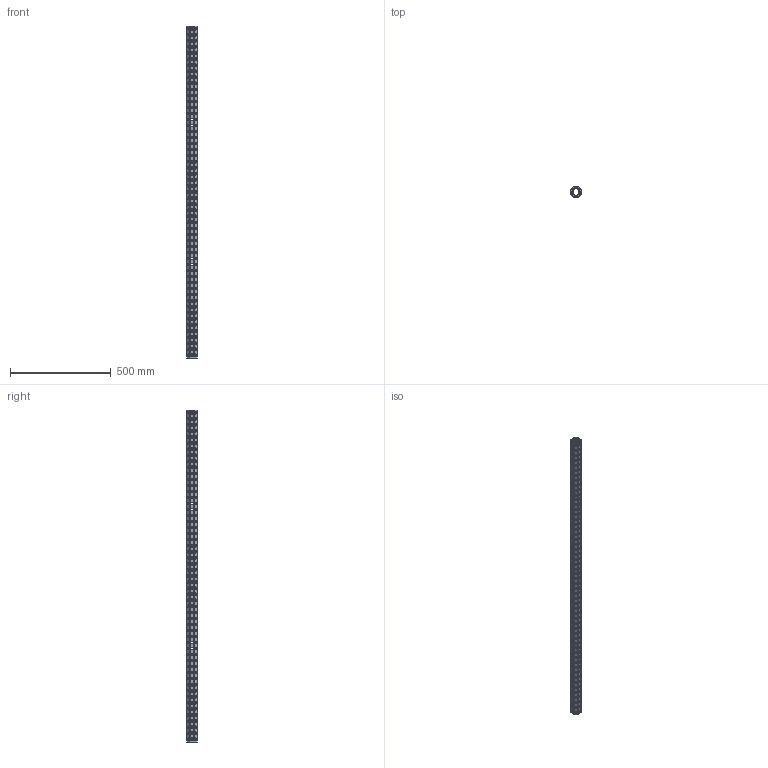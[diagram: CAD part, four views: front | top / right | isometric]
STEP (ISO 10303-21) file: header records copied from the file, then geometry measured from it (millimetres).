
FILE_DESCRIPTION(('CATIA V5 STEP Exchange'),'2;1');
FILE_NAME('U:\Room\唐宝山\EGT002\46-01-010284-01-EGT002-1648.stp','2021-08-24T01:33:16+00:00',('none'),('none'),'CATIA Version 5 Release 21 GA (IN-10)','CATIA V5 STEP AP203','none');
FILE_SCHEMA(('CONFIG_CONTROL_DESIGN'));
Products named in the file (1): 46-01-010284-01-EGT002-1648
Bounding box: 50 x 50 x 1648 mm (x, y, z)
Volume: 1174141.8 mm3; surface area: 566386.2 mm2
Topology: 1 solids, 1 shells, 2284 faces, 6296 edges, 3904 vertices
Faces by surface type: cone 1320, cylinder 938, plane 26
Entity records: 98408 total; most frequent: CARTESIAN_POINT 43649, ORIENTED_EDGE 12592, DIRECTION 8613, EDGE_CURVE 6296, VERTEX_POINT 3904, AXIS2_PLACEMENT_3D 3890, EDGE_LOOP 3056, VECTOR 2440
